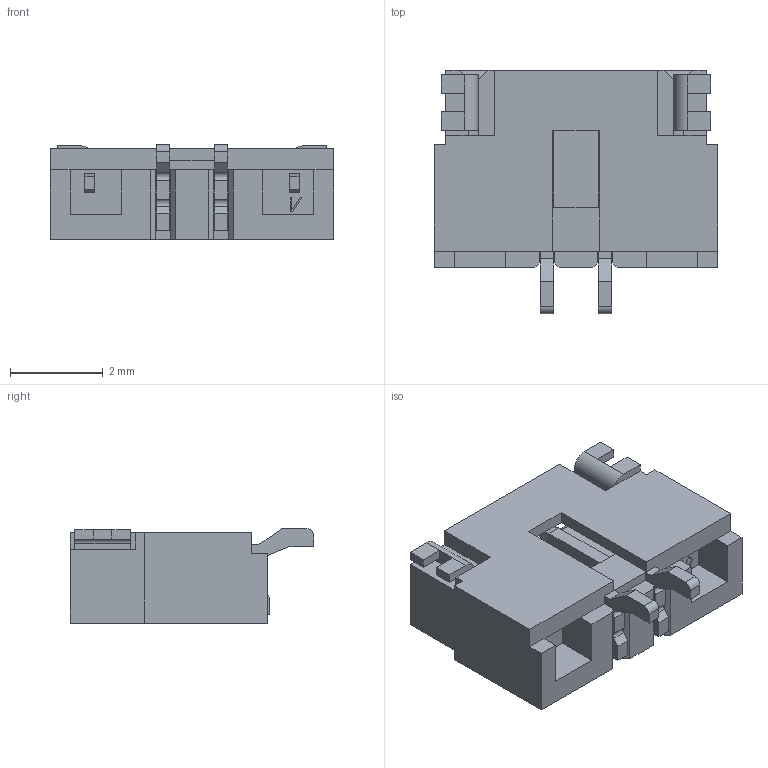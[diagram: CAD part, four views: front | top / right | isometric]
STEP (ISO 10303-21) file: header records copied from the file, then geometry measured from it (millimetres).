
FILE_DESCRIPTION((''),'2;1');
FILE_NAME('88263-02XX-XXX','2009-09-02T',('snow'),(''),'PRO/ENGINEER BY PARAMETRIC TECHNOLOGY CORPORATION, 2007450','PRO/ENGINEER BY PARAMETRIC TECHNOLOGY CORPORATION, 2007450','');
FILE_SCHEMA(('CONFIG_CONTROL_DESIGN'));
Length unit declared in the file: millimetre
Products named in the file (1): 88263-02XX-XXX
Bounding box: 6.11 x 5.25 x 2.03 mm (x, y, z)
Volume: 30.4 mm3; surface area: 164.1 mm2
Topology: 1 solids, 1 shells, 212 faces, 628 edges, 406 vertices
Faces by surface type: plane 202, cylinder 10
Entity records: 6990 total; most frequent: ORIENTED_EDGE 1256, CARTESIAN_POINT 1246, DIRECTION 1072, EDGE_CURVE 628, VECTOR 608, LINE 608, VERTEX_POINT 406, AXIS2_PLACEMENT_3D 232
